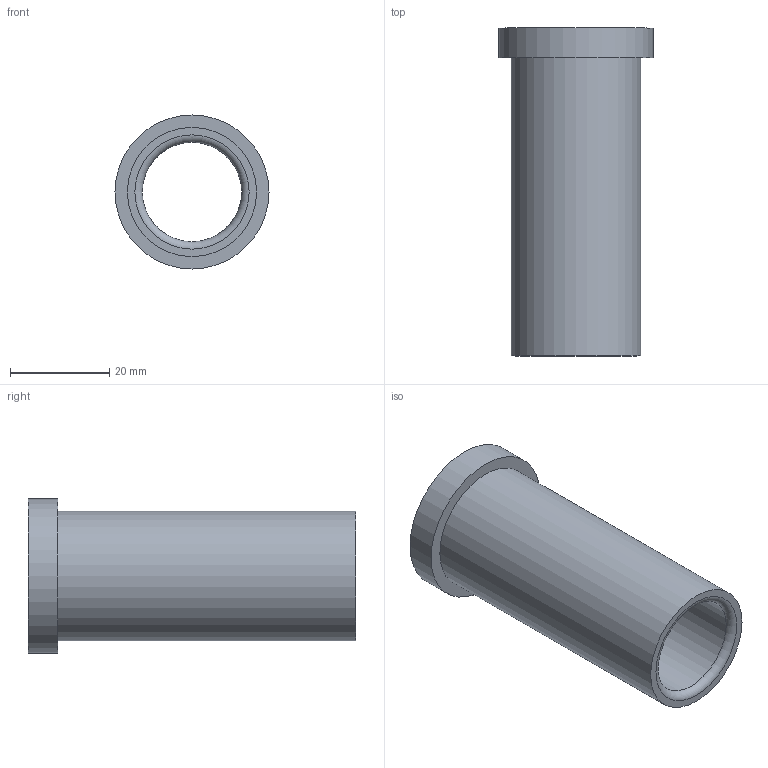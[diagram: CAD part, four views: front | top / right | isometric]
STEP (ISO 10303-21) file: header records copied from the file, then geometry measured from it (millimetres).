
FILE_DESCRIPTION(/* description */ ('STEP AP214'),/* implementation_level */ '2;1');
FILE_NAME(/* name */ '03_12_17849',/* time_stamp */ '2023-06-15T11:35:32+02:00',/* author */ ('License CC BY-ND 4.0'),/* organization */ ('CADENAS'),/* preprocessor_version */ 'ST-DEVELOPER v19.3',/* originating_system */ 'PARTsolutions',/* authorisation */ ' ');
FILE_SCHEMA (('AUTOMOTIVE_DESIGN {1 0 10303 214 3 1 1}'));
Length unit declared in the file: millimetre
Products named in the file (1): VA_Bushing_17849
Bounding box: 31 x 66 x 31 mm (x, y, z)
Volume: 15333.7 mm3; surface area: 10458.1 mm2
Topology: 1 solids, 1 shells, 10 faces, 16 edges, 10 vertices
Faces by surface type: cylinder 4, plane 4, torus 2
Full cylindrical faces by diameter (mm): 20 x1, 20.6 x1, 26 x1, 31 x1
Entity records: 302 total; most frequent: DIRECTION 42, CARTESIAN_POINT 31, AXIS2_PLACEMENT_3D 21, ORIENTED_EDGE 20, EDGE_LOOP 20, FACE_BOUND 20, EDGE_CURVE 10, VERTEX_POINT 10
